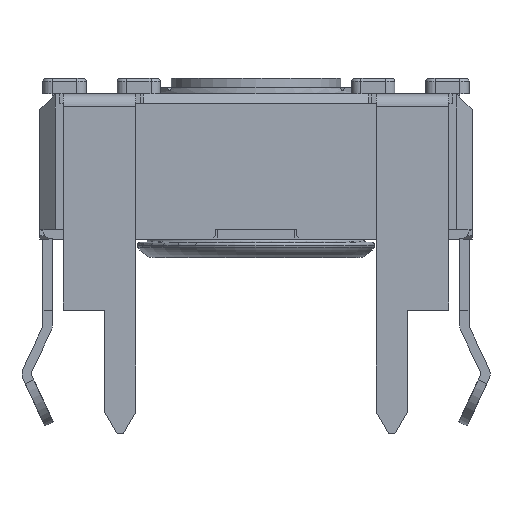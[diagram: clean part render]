
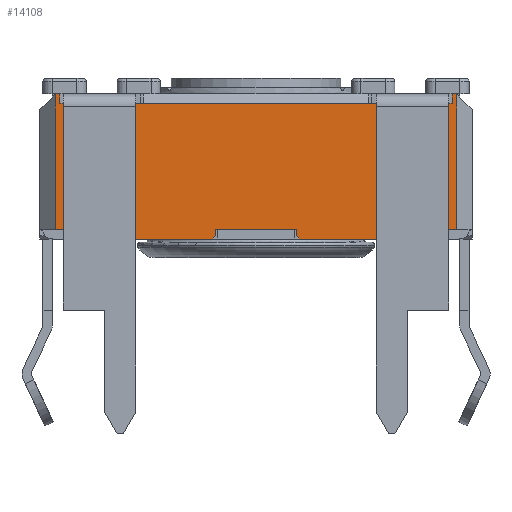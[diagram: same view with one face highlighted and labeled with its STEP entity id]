
A CAD part, front view. The second image highlights one B-rep face of the part: STEP entity #14108.
In plain terms, the highlighted planar face has unit normal (0, -1, 0).
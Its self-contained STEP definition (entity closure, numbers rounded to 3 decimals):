
#1100=FACE_OUTER_BOUND('',#1832,.T.);
#1832=EDGE_LOOP('',(#11152,#11153,#11154,#11155,#11156,#11157,#11158,#11159,
#11160,#11161,#11162,#11163,#11164,#11165,#11166,#11167,#11168,#11169,#11170,
#11171,#11172,#11173,#11174,#11175,#11176));
#2506=LINE('',#20284,#4117);
#2509=LINE('',#20292,#4120);
#2535=LINE('',#20343,#4146);
#2536=LINE('',#20345,#4147);
#2539=LINE('',#20353,#4150);
#2565=LINE('',#20404,#4176);
#2757=LINE('',#20968,#4368);
#2770=LINE('',#20992,#4381);
#2922=LINE('',#21550,#4533);
#3086=LINE('',#21992,#4697);
#3091=LINE('',#22002,#4702);
#3096=LINE('',#22012,#4707);
#3111=LINE('',#22038,#4722);
#3197=LINE('',#22312,#4808);
#3205=LINE('',#22330,#4816);
#3211=LINE('',#22338,#4822);
#3212=LINE('',#22341,#4823);
#3213=LINE('',#22343,#4824);
#3214=LINE('',#22345,#4825);
#3215=LINE('',#22346,#4826);
#3216=LINE('',#22347,#4827);
#3217=LINE('',#22348,#4828);
#3218=LINE('',#22349,#4829);
#3219=LINE('',#22350,#4830);
#3220=LINE('',#22351,#4831);
#4117=VECTOR('',#16285,10.);
#4120=VECTOR('',#16296,10.);
#4146=VECTOR('',#16324,10.);
#4147=VECTOR('',#16327,10.);
#4150=VECTOR('',#16338,10.);
#4176=VECTOR('',#16366,10.);
#4368=VECTOR('',#16936,10.);
#4381=VECTOR('',#16963,10.);
#4533=VECTOR('',#17345,10.);
#4697=VECTOR('',#17641,10.);
#4702=VECTOR('',#17646,10.);
#4707=VECTOR('',#17651,10.);
#4722=VECTOR('',#17668,10.);
#4808=VECTOR('',#17888,10.);
#4816=VECTOR('',#17900,10.);
#4822=VECTOR('',#17910,10.);
#4823=VECTOR('',#17913,10.);
#4824=VECTOR('',#17914,10.);
#4825=VECTOR('',#17915,10.);
#4826=VECTOR('',#17916,10.);
#4827=VECTOR('',#17917,10.);
#4828=VECTOR('',#17918,10.);
#4829=VECTOR('',#17919,10.);
#4830=VECTOR('',#17920,10.);
#4831=VECTOR('',#17921,10.);
#5410=VERTEX_POINT('',#19534);
#5420=VERTEX_POINT('',#19556);
#5428=VERTEX_POINT('',#19577);
#5467=VERTEX_POINT('',#19674);
#5688=VERTEX_POINT('',#20291);
#5712=VERTEX_POINT('',#20341);
#5713=VERTEX_POINT('',#20352);
#5737=VERTEX_POINT('',#20402);
#5919=VERTEX_POINT('',#20965);
#5920=VERTEX_POINT('',#20967);
#5923=VERTEX_POINT('',#20989);
#5924=VERTEX_POINT('',#20991);
#6058=VERTEX_POINT('',#21546);
#6175=VERTEX_POINT('',#21991);
#6179=VERTEX_POINT('',#21999);
#6180=VERTEX_POINT('',#22001);
#6184=VERTEX_POINT('',#22009);
#6185=VERTEX_POINT('',#22011);
#6247=VERTEX_POINT('',#22310);
#6248=VERTEX_POINT('',#22311);
#6255=VERTEX_POINT('',#22328);
#6256=VERTEX_POINT('',#22329);
#6257=VERTEX_POINT('',#22340);
#6258=VERTEX_POINT('',#22342);
#6259=VERTEX_POINT('',#22344);
#7130=EDGE_CURVE('',#5467,#5428,#2506,.T.);
#7133=EDGE_CURVE('',#5688,#5467,#2509,.T.);
#7159=EDGE_CURVE('',#5428,#5712,#2535,.T.);
#7160=EDGE_CURVE('',#5410,#5420,#2536,.T.);
#7163=EDGE_CURVE('',#5713,#5410,#2539,.T.);
#7189=EDGE_CURVE('',#5420,#5737,#2565,.T.);
#7472=EDGE_CURVE('',#5920,#5919,#2757,.T.);
#7485=EDGE_CURVE('',#5924,#5923,#2770,.T.);
#7697=EDGE_CURVE('',#5924,#6058,#2922,.T.);
#7882=EDGE_CURVE('',#6175,#6058,#3086,.T.);
#7887=EDGE_CURVE('',#6180,#6179,#3091,.T.);
#7892=EDGE_CURVE('',#6185,#6184,#3096,.T.);
#7907=EDGE_CURVE('',#6185,#5919,#3111,.T.);
#8012=EDGE_CURVE('',#6247,#6248,#3197,.T.);
#8020=EDGE_CURVE('',#6255,#6256,#3205,.T.);
#8026=EDGE_CURVE('',#6180,#6247,#3211,.T.);
#8027=EDGE_CURVE('',#6179,#6257,#3212,.T.);
#8028=EDGE_CURVE('',#6258,#6257,#3213,.T.);
#8029=EDGE_CURVE('',#6258,#6259,#3214,.T.);
#8030=EDGE_CURVE('',#6259,#6175,#3215,.T.);
#8031=EDGE_CURVE('',#5923,#5713,#3216,.T.);
#8032=EDGE_CURVE('',#5688,#5737,#3217,.T.);
#8033=EDGE_CURVE('',#5712,#5920,#3218,.T.);
#8034=EDGE_CURVE('',#6184,#6256,#3219,.T.);
#8035=EDGE_CURVE('',#6255,#6248,#3220,.T.);
#11152=ORIENTED_EDGE('',*,*,#8012,.F.);
#11153=ORIENTED_EDGE('',*,*,#8026,.F.);
#11154=ORIENTED_EDGE('',*,*,#7887,.T.);
#11155=ORIENTED_EDGE('',*,*,#8027,.T.);
#11156=ORIENTED_EDGE('',*,*,#8028,.F.);
#11157=ORIENTED_EDGE('',*,*,#8029,.T.);
#11158=ORIENTED_EDGE('',*,*,#8030,.T.);
#11159=ORIENTED_EDGE('',*,*,#7882,.T.);
#11160=ORIENTED_EDGE('',*,*,#7697,.F.);
#11161=ORIENTED_EDGE('',*,*,#7485,.T.);
#11162=ORIENTED_EDGE('',*,*,#8031,.T.);
#11163=ORIENTED_EDGE('',*,*,#7163,.T.);
#11164=ORIENTED_EDGE('',*,*,#7160,.T.);
#11165=ORIENTED_EDGE('',*,*,#7189,.T.);
#11166=ORIENTED_EDGE('',*,*,#8032,.F.);
#11167=ORIENTED_EDGE('',*,*,#7133,.T.);
#11168=ORIENTED_EDGE('',*,*,#7130,.T.);
#11169=ORIENTED_EDGE('',*,*,#7159,.T.);
#11170=ORIENTED_EDGE('',*,*,#8033,.T.);
#11171=ORIENTED_EDGE('',*,*,#7472,.T.);
#11172=ORIENTED_EDGE('',*,*,#7907,.F.);
#11173=ORIENTED_EDGE('',*,*,#7892,.T.);
#11174=ORIENTED_EDGE('',*,*,#8034,.T.);
#11175=ORIENTED_EDGE('',*,*,#8020,.F.);
#11176=ORIENTED_EDGE('',*,*,#8035,.T.);
#13186=PLANE('',#15075);
#14108=ADVANCED_FACE('',(#1100),#13186,.T.);
#15075=AXIS2_PLACEMENT_3D('',#22339,#17911,#17912);
#16285=DIRECTION('',(-1.,0.,0.));
#16296=DIRECTION('',(-1.,0.,0.));
#16324=DIRECTION('',(-1.,0.,0.));
#16327=DIRECTION('',(-1.,0.,0.));
#16338=DIRECTION('',(-1.,0.,0.));
#16366=DIRECTION('',(-1.,0.,0.));
#16936=DIRECTION('',(-1.,0.,0.));
#16963=DIRECTION('',(-1.,0.,0.));
#17345=DIRECTION('',(0.,0.,-1.));
#17641=DIRECTION('',(1.,0.,0.));
#17646=DIRECTION('',(1.,0.,0.));
#17651=DIRECTION('',(1.,0.,0.));
#17668=DIRECTION('',(0.,0.,1.));
#17888=DIRECTION('',(-0.707,0.,-0.707));
#17900=DIRECTION('',(-0.707,0.,0.707));
#17910=DIRECTION('',(0.,0.,-1.));
#17911=DIRECTION('center_axis',(0.,-1.,0.));
#17912=DIRECTION('ref_axis',(0.,0.,-1.));
#17913=DIRECTION('',(0.,0.,-1.));
#17914=DIRECTION('',(-0.707,0.,0.707));
#17915=DIRECTION('',(1.,0.,0.));
#17916=DIRECTION('',(0.,0.,1.));
#17917=DIRECTION('',(0.,0.,-1.));
#17918=DIRECTION('',(1.,0.,0.));
#17919=DIRECTION('',(0.,0.,1.));
#17920=DIRECTION('',(0.,0.,-1.));
#17921=DIRECTION('',(1.,0.,0.));
#19534=CARTESIAN_POINT('',(-1.217,-9.898,4.1));
#19556=CARTESIAN_POINT('',(-3.567,-9.898,4.1));
#19577=CARTESIAN_POINT('',(-13.717,-9.898,4.1));
#19674=CARTESIAN_POINT('',(-11.367,-9.898,4.1));
#20284=CARTESIAN_POINT('',(-3.944,-9.898,4.1));
#20291=CARTESIAN_POINT('',(-11.117,-9.898,4.1));
#20292=CARTESIAN_POINT('',(-3.944,-9.898,4.1));
#20341=CARTESIAN_POINT('',(-13.817,-9.898,4.1));
#20343=CARTESIAN_POINT('',(-3.944,-9.898,4.1));
#20345=CARTESIAN_POINT('',(-1.862,-9.898,4.1));
#20352=CARTESIAN_POINT('',(-1.117,-9.898,4.1));
#20353=CARTESIAN_POINT('',(-1.862,-9.898,4.1));
#20402=CARTESIAN_POINT('',(-3.817,-9.898,4.1));
#20404=CARTESIAN_POINT('',(-1.862,-9.898,4.1));
#20965=CARTESIAN_POINT('',(-13.967,-9.898,4.4));
#20967=CARTESIAN_POINT('',(-13.817,-9.898,4.4));
#20968=CARTESIAN_POINT('',(-14.467,-9.898,4.4));
#20989=CARTESIAN_POINT('',(-1.117,-9.898,4.4));
#20991=CARTESIAN_POINT('',(-0.967,-9.898,4.4));
#20992=CARTESIAN_POINT('',(-14.467,-9.898,4.4));
#21546=CARTESIAN_POINT('',(-0.967,-9.898,0.));
#21550=CARTESIAN_POINT('',(-0.967,-9.898,0.));
#21991=CARTESIAN_POINT('',(-1.467,-9.898,0.));
#21992=CARTESIAN_POINT('',(-0.646,-9.898,0.));
#21999=CARTESIAN_POINT('',(-6.167,-9.898,0.));
#22001=CARTESIAN_POINT('',(-8.767,-9.898,0.));
#22002=CARTESIAN_POINT('',(-14.467,-9.898,0.));
#22009=CARTESIAN_POINT('',(-13.467,-9.898,0.));
#22011=CARTESIAN_POINT('',(-13.967,-9.898,0.));
#22012=CARTESIAN_POINT('',(-7.245,-9.898,0.));
#22038=CARTESIAN_POINT('',(-13.967,-9.898,0.));
#22310=CARTESIAN_POINT('',(-8.767,-9.898,-0.2));
#22311=CARTESIAN_POINT('',(-8.867,-9.898,-0.3));
#22312=CARTESIAN_POINT('',(-6.667,-9.898,1.9));
#22328=CARTESIAN_POINT('',(-13.367,-9.898,-0.3));
#22329=CARTESIAN_POINT('',(-13.467,-9.898,-0.2));
#22330=CARTESIAN_POINT('',(-10.242,-9.898,-3.425));
#22338=CARTESIAN_POINT('',(-8.767,-9.898,0.));
#22339=CARTESIAN_POINT('Origin',(-0.467,-9.898,0.));
#22340=CARTESIAN_POINT('',(-6.167,-9.898,-0.2));
#22341=CARTESIAN_POINT('',(-6.167,-9.898,0.));
#22342=CARTESIAN_POINT('',(-6.067,-9.898,-0.3));
#22343=CARTESIAN_POINT('',(-4.767,-9.898,-1.6));
#22344=CARTESIAN_POINT('',(-1.467,-9.898,-0.3));
#22345=CARTESIAN_POINT('',(-0.467,-9.898,-0.3));
#22346=CARTESIAN_POINT('',(-1.467,-9.898,-0.15));
#22347=CARTESIAN_POINT('',(-1.117,-9.898,2.2));
#22348=CARTESIAN_POINT('',(-3.967,-9.898,4.1));
#22349=CARTESIAN_POINT('',(-13.817,-9.898,2.2));
#22350=CARTESIAN_POINT('',(-13.467,-9.898,-0.15));
#22351=CARTESIAN_POINT('',(-0.467,-9.898,-0.3));
